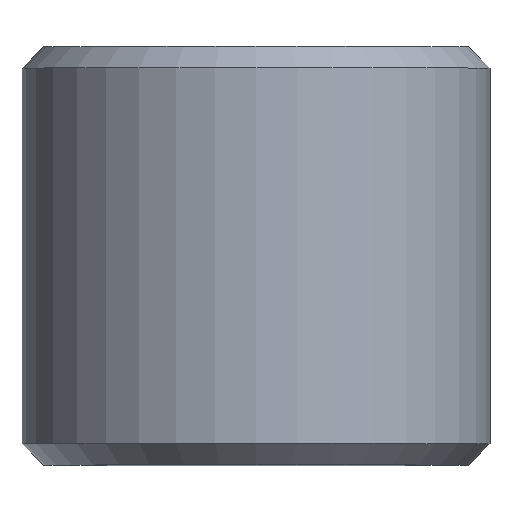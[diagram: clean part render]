
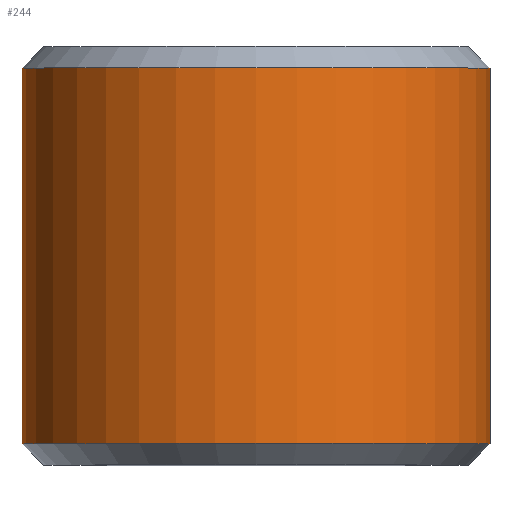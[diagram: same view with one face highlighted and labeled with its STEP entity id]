
A CAD part, top view. The second image highlights one B-rep face of the part: STEP entity #244.
In plain terms, the highlighted cylindrical face has radius 3.914 mm (diameter 7.828 mm), a full revolution.
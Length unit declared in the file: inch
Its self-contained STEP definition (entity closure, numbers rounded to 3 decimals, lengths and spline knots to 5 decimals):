
#16=CYLINDRICAL_SURFACE('',#274,0.1541);
#18=CIRCLE('',#272,0.1541);
#19=CIRCLE('',#273,0.1541);
#20=CIRCLE('',#275,0.1541);
#21=CIRCLE('',#276,0.1541);
#34=FACE_OUTER_BOUND('',#47,.T.);
#47=EDGE_LOOP('',(#193,#194,#195,#196,#197,#198));
#67=LINE('',#425,#83);
#83=VECTOR('',#321,0.156);
#117=VERTEX_POINT('',#418);
#118=VERTEX_POINT('',#420);
#119=VERTEX_POINT('',#424);
#120=VERTEX_POINT('',#426);
#149=EDGE_CURVE('',#117,#118,#18,.F.);
#150=EDGE_CURVE('',#118,#117,#19,.F.);
#151=EDGE_CURVE('',#118,#119,#67,.T.);
#152=EDGE_CURVE('',#120,#119,#20,.F.);
#153=EDGE_CURVE('',#119,#120,#21,.F.);
#193=ORIENTED_EDGE('',*,*,#150,.F.);
#194=ORIENTED_EDGE('',*,*,#151,.T.);
#195=ORIENTED_EDGE('',*,*,#152,.F.);
#196=ORIENTED_EDGE('',*,*,#153,.F.);
#197=ORIENTED_EDGE('',*,*,#151,.F.);
#198=ORIENTED_EDGE('',*,*,#149,.F.);
#244=ADVANCED_FACE('',(#34),#16,.T.);
#272=AXIS2_PLACEMENT_3D('',#421,#315,#316);
#273=AXIS2_PLACEMENT_3D('',#422,#317,#318);
#274=AXIS2_PLACEMENT_3D('',#423,#319,#320);
#275=AXIS2_PLACEMENT_3D('',#427,#322,#323);
#276=AXIS2_PLACEMENT_3D('',#428,#324,#325);
#315=DIRECTION('center_axis',(0.,1.,0.));
#316=DIRECTION('ref_axis',(0.,0.,-1.));
#317=DIRECTION('center_axis',(0.,1.,0.));
#318=DIRECTION('ref_axis',(0.,0.,-1.));
#319=DIRECTION('center_axis',(0.,-1.,0.));
#320=DIRECTION('ref_axis',(0.,0.,-1.));
#321=DIRECTION('',(0.,1.,0.));
#322=DIRECTION('center_axis',(0.,-1.,0.));
#323=DIRECTION('ref_axis',(0.,0.,-1.));
#324=DIRECTION('center_axis',(0.,-1.,0.));
#325=DIRECTION('ref_axis',(0.,0.,-1.));
#418=CARTESIAN_POINT('',(0.,0.0141,-0.1541));
#420=CARTESIAN_POINT('',(0.,0.0141,0.1541));
#421=CARTESIAN_POINT('Origin',(0.,0.0141,0.));
#422=CARTESIAN_POINT('Origin',(0.,0.0141,0.));
#423=CARTESIAN_POINT('Origin',(0.,0.1378,0.));
#424=CARTESIAN_POINT('',(0.,0.26149,0.1541));
#425=CARTESIAN_POINT('',(0.,0.1378,0.1541));
#426=CARTESIAN_POINT('',(0.,0.26149,-0.1541));
#427=CARTESIAN_POINT('Origin',(0.,0.26149,0.));
#428=CARTESIAN_POINT('Origin',(0.,0.26149,0.));
